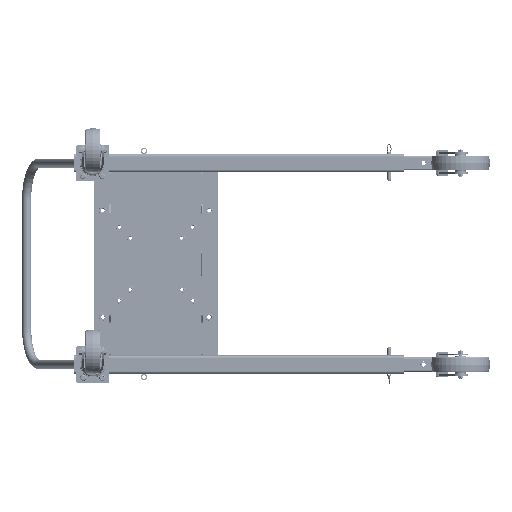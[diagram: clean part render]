
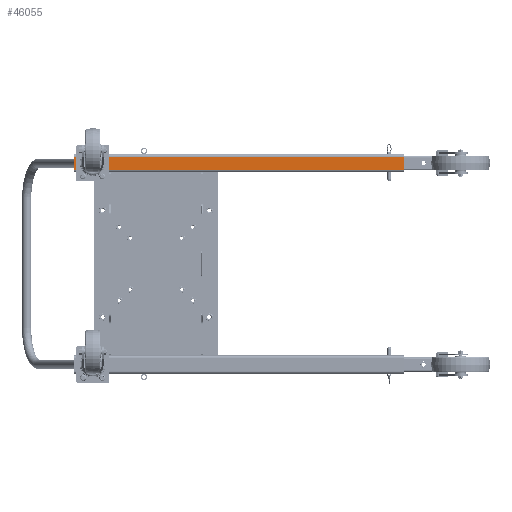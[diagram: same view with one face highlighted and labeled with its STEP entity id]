
A CAD part, front view. The second image highlights one B-rep face of the part: STEP entity #46055.
In plain terms, the highlighted planar face has unit normal (0.005, -1, 0) as drawn and (0, -1, 0) by its records, which use the part's own axes.
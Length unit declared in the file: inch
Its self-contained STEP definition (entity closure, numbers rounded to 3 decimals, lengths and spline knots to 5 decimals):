
#247 = EDGE_CURVE ( 'NONE', #16665, #38370, #20228, .T. ) ;
#1285 = ORIENTED_EDGE ( 'NONE', *, *, #247, .F. ) ;
#2264 = VECTOR ( 'NONE', #5580, 39.37008 ) ;
#4720 = CARTESIAN_POINT ( 'NONE',  ( 44.875, -1.25, 0.875 ) ) ;
#5090 = EDGE_LOOP ( 'NONE', ( #33812, #45767, #1285, #6139 ) ) ;
#5104 = DIRECTION ( 'NONE',  ( 0., 1., 0. ) ) ;
#5349 = PLANE ( 'NONE',  #41954 ) ;
#5580 = DIRECTION ( 'NONE',  ( 0., 0., -1. ) ) ;
#6139 = ORIENTED_EDGE ( 'NONE', *, *, #19849, .T. ) ;
#6851 = CARTESIAN_POINT ( 'NONE',  ( 44.875, -1.25, -0.875 ) ) ;
#7444 = CARTESIAN_POINT ( 'NONE',  ( 0., -1.25, 0.875 ) ) ;
#7761 = CARTESIAN_POINT ( 'NONE',  ( 0., -1.25, 0.875 ) ) ;
#8682 = VECTOR ( 'NONE', #44283, 39.37008 ) ;
#11091 = CARTESIAN_POINT ( 'NONE',  ( 44.875, -1.25, -0.875 ) ) ;
#11681 = VECTOR ( 'NONE', #14632, 39.37008 ) ;
#12664 = EDGE_CURVE ( 'NONE', #38370, #45281, #24838, .T. ) ;
#14404 = VERTEX_POINT ( 'NONE', #7444 ) ;
#14632 = DIRECTION ( 'NONE',  ( 0., 0., -1. ) ) ;
#15995 = DIRECTION ( 'NONE',  ( 0., 0., 1. ) ) ;
#16665 = VERTEX_POINT ( 'NONE', #23407 ) ;
#19849 = EDGE_CURVE ( 'NONE', #16665, #14404, #37639, .T. ) ;
#20228 = LINE ( 'NONE', #30666, #2264 ) ;
#23407 = CARTESIAN_POINT ( 'NONE',  ( 44.875, -1.25, 0.875 ) ) ;
#24838 = LINE ( 'NONE', #6851, #37260 ) ;
#25065 = DIRECTION ( 'NONE',  ( -1., 0., 0. ) ) ;
#29062 = LINE ( 'NONE', #7761, #11681 ) ;
#29241 = EDGE_CURVE ( 'NONE', #14404, #45281, #29062, .T. ) ;
#30440 = FACE_OUTER_BOUND ( 'NONE', #5090, .T. ) ;
#30666 = CARTESIAN_POINT ( 'NONE',  ( 44.875, -1.25, 0.875 ) ) ;
#33812 = ORIENTED_EDGE ( 'NONE', *, *, #29241, .T. ) ;
#37116 = CARTESIAN_POINT ( 'NONE',  ( 44.875, -1.25, 0.875 ) ) ;
#37260 = VECTOR ( 'NONE', #25065, 39.37008 ) ;
#37639 = LINE ( 'NONE', #4720, #8682 ) ;
#38370 = VERTEX_POINT ( 'NONE', #11091 ) ;
#40123 = CARTESIAN_POINT ( 'NONE',  ( 0., -1.25, -0.875 ) ) ;
#41954 = AXIS2_PLACEMENT_3D ( 'NONE', #37116, #5104, #15995 ) ;
#44283 = DIRECTION ( 'NONE',  ( -1., 0., 0. ) ) ;
#45281 = VERTEX_POINT ( 'NONE', #40123 ) ;
#45767 = ORIENTED_EDGE ( 'NONE', *, *, #12664, .F. ) ;
#46055 = ADVANCED_FACE ( 'NONE', ( #30440 ), #5349, .F. ) ;
